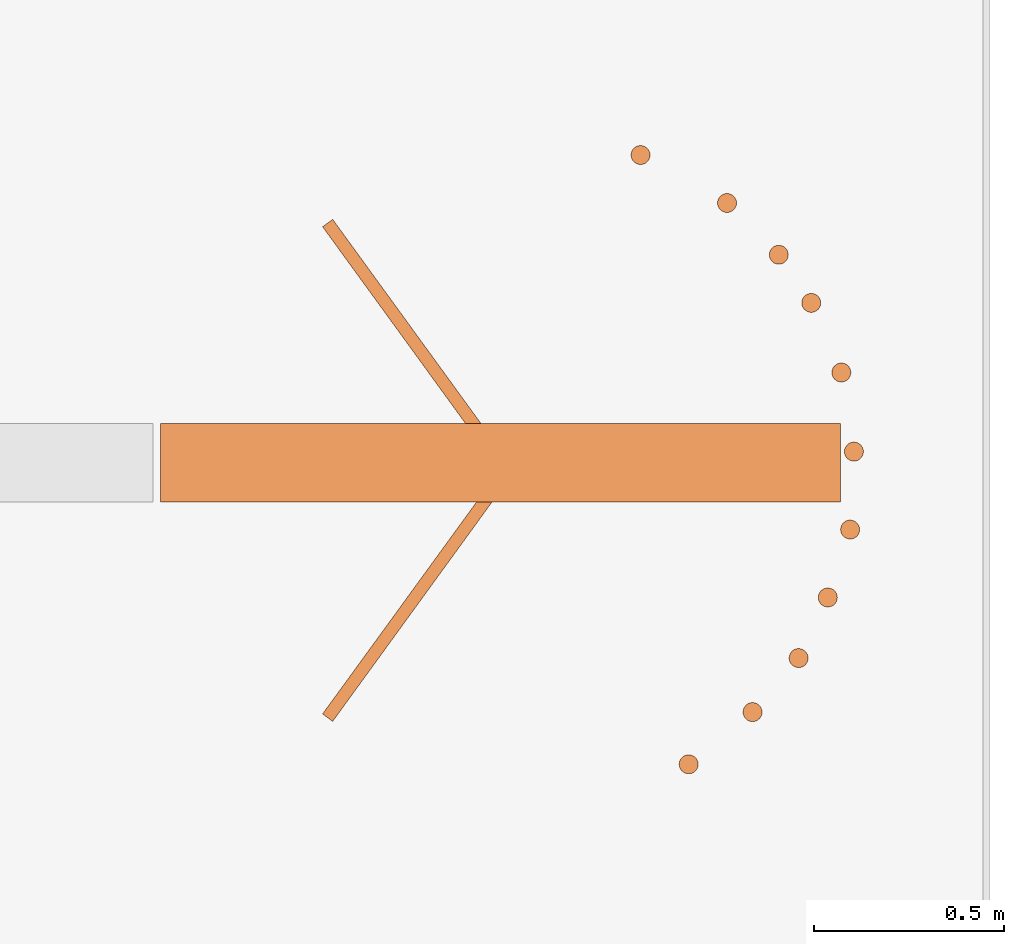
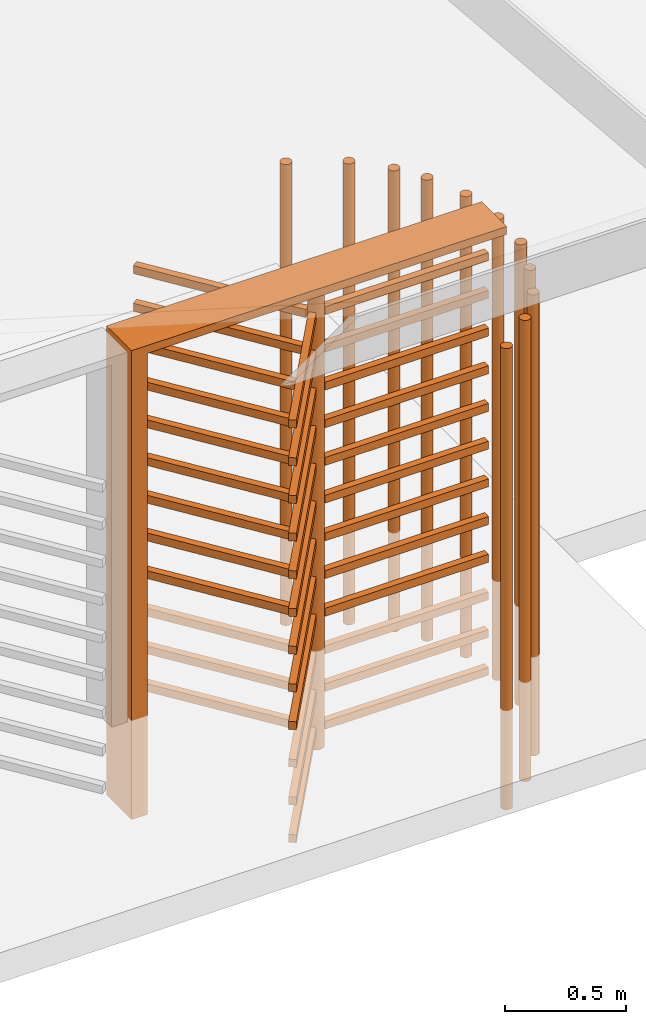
# One storey, part 62 of 64: 1 proxy.
"""IFC2X3 building model written with IfcOpenShell, lengths in millimetres."""

from ifc_helpers import new_model, entity, si_unit, converted_unit, derived_unit, direction, frame, frame_2d, origin, origin_2d_with_axis, place, context, subcontext, project, spatial, polyline, rectangle, circle, outline, extrude, source, transform, mapped, material, type_object, type_shapes, element, save


model = new_model("IFC2X3")

# Units and contexts
model_context = context("Model", 3, precision=0.01, world=origin(), true_north=direction((4.05803320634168e-15, -1.0)))
body_context = subcontext(model_context, "Body", "Model", "MODEL_VIEW")
ifc_project = project(units=[si_unit("LENGTHUNIT", "METRE", prefix="MILLI"), si_unit("AREAUNIT", "SQUARE_METRE"), si_unit("VOLUMEUNIT", "CUBIC_METRE"), converted_unit("PLANEANGLEUNIT", "DEGREE", entity("IfcRatioMeasure", 0.0174532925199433), si_unit("PLANEANGLEUNIT", "RADIAN"), dimensions=[0, 0, 0, 0, 0, 0, 0]), si_unit("MASSUNIT", "GRAM", prefix="KILO"), derived_unit("MASSDENSITYUNIT", [(si_unit("MASSUNIT", "GRAM", prefix="KILO"), 1), (si_unit("LENGTHUNIT", "METRE"), -3)]), si_unit("TIMEUNIT", "SECOND"), si_unit("FREQUENCYUNIT", "HERTZ"), si_unit("THERMODYNAMICTEMPERATUREUNIT", "DEGREE_CELSIUS"), derived_unit("THERMALTRANSMITTANCEUNIT", [(si_unit("MASSUNIT", "GRAM", prefix="KILO"), 1), (si_unit("THERMODYNAMICTEMPERATUREUNIT", "KELVIN"), -1), (si_unit("TIMEUNIT", "SECOND"), -3)]), derived_unit("VOLUMETRICFLOWRATEUNIT", [(si_unit("LENGTHUNIT", "METRE"), 3), (si_unit("TIMEUNIT", "SECOND"), -1)]), si_unit("ELECTRICCURRENTUNIT", "AMPERE"), si_unit("ELECTRICVOLTAGEUNIT", "VOLT"), si_unit("POWERUNIT", "WATT"), si_unit("FORCEUNIT", "NEWTON", prefix="KILO"), si_unit("ILLUMINANCEUNIT", "LUX"), si_unit("LUMINOUSFLUXUNIT", "LUMEN"), si_unit("LUMINOUSINTENSITYUNIT", "CANDELA"), derived_unit("USERDEFINED", [(si_unit("MASSUNIT", "GRAM", prefix="KILO"), -1), (si_unit("LENGTHUNIT", "METRE"), -2), (si_unit("TIMEUNIT", "SECOND"), 3), (si_unit("LUMINOUSFLUXUNIT", "LUMEN"), 1)]), derived_unit("LINEARVELOCITYUNIT", [(si_unit("LENGTHUNIT", "METRE"), 1), (si_unit("TIMEUNIT", "SECOND"), -1)]), si_unit("PRESSUREUNIT", "PASCAL"), derived_unit("USERDEFINED", [(si_unit("LENGTHUNIT", "METRE"), -2), (si_unit("MASSUNIT", "GRAM", prefix="KILO"), 1), (si_unit("TIMEUNIT", "SECOND"), -2)])], contexts=[model_context])

# Site, building, storey
site_placement = place(None, frame((927466.849349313, 583801.882853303, 0.0), z_axis=(0.0, 0.0, 1.0), x_axis=(-1.0, 0.0, 0.0)))
site = spatial("IfcSite", under=ifc_project, at=site_placement, Name="Surface", CompositionType="ELEMENT")
building_placement = place(site_placement, origin())
building = spatial("IfcBuilding", under=site, at=building_placement, CompositionType="ELEMENT")
storey_placement = place(building_placement, frame((0.0, 0.0, 44170.0)))
storey = spatial("IfcBuildingStorey", under=building, at=storey_placement, Name="Ground FFL", CompositionType="ELEMENT", Elevation=44170.0)

# Proxy
ifc_material = material(Name="metal")
building_element_proxy_type = type_object("IfcBuildingElementProxyType", Name="turnstile", PredefinedType="NOTDEFINED", material=ifc_material)
shared_shape = source(origin(), body_context, "Body", "SweptSolid", [
    extrude(outline(polyline([(-761.333333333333, 546.002047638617), (1562.66666666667, 546.002047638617), (1562.66666666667, 621.174640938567), (-801.333333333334, 621.174640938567), (-801.333333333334, -1167.17668857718), (-761.333333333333, -1167.17668857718), (-761.333333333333, 546.002047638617)])), frame((-306.647232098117, -82.987966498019, 1562.66666666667), z_axis=(0.0, 1.0, 0.0), x_axis=(0.0, 0.0, -1.0)), (0.0, 0.0, 1.0), 206.680121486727),
    extrude(circle(Radius=25.0, at=origin_2d_with_axis()), frame((334.415185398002, 829.159621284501, 0.0)), (0.0, 0.0, 1.0), 2324.0),
    extrude(circle(Radius=25.0, at=frame_2d((0.0, -1.35358391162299e-13), x_axis=(1.0, 0.0))), frame((460.972571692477, -772.984015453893, 0.0)), (0.0, 0.0, 1.0), 2324.0),
    extrude(circle(Radius=25.0, at=frame_2d((0.0, -1.35358391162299e-13), x_axis=(1.0, 0.0))), frame((628.922664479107, -635.772859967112, 0.0)), (0.0, 0.0, 1.0), 2324.0),
    extrude(circle(Radius=25.0, at=frame_2d((0.0, -1.35358391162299e-13), x_axis=(1.0, 0.0))), frame((885.529456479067, -155.795903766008, 0.0)), (0.0, 0.0, 1.0), 2324.0),
    extrude(circle(Radius=25.0, at=frame_2d((0.0, -6.76791955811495e-14), x_axis=(1.0, 0.0))), frame((750.082223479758, -493.671776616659, 0.0)), (0.0, 0.0, 1.0), 2324.0),
    extrude(circle(Radius=25.0, at=frame_2d((0.0, -1.35358391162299e-13), x_axis=(1.0, 0.0))), frame((826.815063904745, -334.353193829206, 0.0)), (0.0, 0.0, 1.0), 2324.0),
    extrude(circle(Radius=25.0, at=frame_2d((0.0, -3.38395977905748e-14), x_axis=(1.0, 0.0))), frame((895.529456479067, 49.2040962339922, 0.0)), (0.0, 0.0, 1.0), 2324.0),
    extrude(circle(Radius=25.0, at=frame_2d((0.0, -1.01518793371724e-13), x_axis=(1.0, 0.0))), frame((862.441450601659, 257.283392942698, 0.0)), (0.0, 0.0, 1.0), 2324.0),
    extrude(circle(Radius=25.0, at=frame_2d((0.0, -1.35358391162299e-13), x_axis=(1.0, 0.0))), frame((783.316799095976, 440.405217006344, 0.0)), (0.0, 0.0, 1.0), 2324.0),
    extrude(circle(Radius=25.0, at=frame_2d((0.0, -6.76791955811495e-14), x_axis=(1.0, 0.0))), frame((697.931913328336, 566.993515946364, 0.0)), (0.0, 0.0, 1.0), 2324.0),
    extrude(circle(Radius=25.0, at=origin_2d_with_axis()), frame((561.816309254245, 703.109120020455, 0.0)), (0.0, 0.0, 1.0), 2324.0),
    extrude(rectangle(XDim=780.0, YDim=32.9097025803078, at=origin_2d_with_axis()), frame((-259.236248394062, -334.808632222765, 75.1291716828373), z_axis=(0.0, 0.0, 1.0), x_axis=(-0.587785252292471, -0.809016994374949, 0.0)), (0.0, 0.0, 1.0), 40.0000000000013),
    extrude(rectangle(XDim=780.0, YDim=32.9097025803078, at=frame_2d((-8.5265128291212e-14, 1.59872115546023e-14), x_axis=(1.0, 0.0))), frame((-259.236248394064, -334.808632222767, 2165.12917168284), z_axis=(0.0, 0.0, 1.0), x_axis=(-0.587785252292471, -0.809016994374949, 0.0)), (0.0, 0.0, 1.0), 40.0000000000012),
    extrude(rectangle(XDim=780.0, YDim=32.9097025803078, at=frame_2d((0.0, 4.9737991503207e-14), x_axis=(1.0, 0.0))), frame((-259.236248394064, -334.808632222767, 1975.12917168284), z_axis=(0.0, 0.0, 1.0), x_axis=(-0.587785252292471, -0.809016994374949, 0.0)), (0.0, 0.0, 1.0), 40.0000000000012),
    extrude(rectangle(XDim=780.0, YDim=32.9097025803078, at=frame_2d((0.0, -3.37507799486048e-14), x_axis=(1.0, 0.0))), frame((-259.236248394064, -334.808632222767, 1785.12917168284), z_axis=(0.0, 0.0, 1.0), x_axis=(-0.587785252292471, -0.809016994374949, 0.0)), (0.0, 0.0, 1.0), 40.0000000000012),
    extrude(rectangle(XDim=780.0, YDim=32.9097025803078, at=frame_2d((0.0, 1.77635683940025e-14), x_axis=(1.0, 0.0))), frame((-259.236248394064, -334.808632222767, 1595.12917168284), z_axis=(0.0, 0.0, 1.0), x_axis=(-0.587785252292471, -0.809016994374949, 0.0)), (0.0, 0.0, 1.0), 40.0000000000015),
    extrude(rectangle(XDim=780.0, YDim=32.9097025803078, at=frame_2d((0.0, 3.37507799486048e-14), x_axis=(1.0, 0.0))), frame((-259.236248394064, -334.808632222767, 1405.12917168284), z_axis=(0.0, 0.0, 1.0), x_axis=(-0.587785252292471, -0.809016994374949, 0.0)), (0.0, 0.0, 1.0), 40.0000000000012),
    extrude(rectangle(XDim=780.0, YDim=32.9097025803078, at=origin_2d_with_axis()), frame((-259.236248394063, -334.808632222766, 1215.12917168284), z_axis=(0.0, 0.0, 1.0), x_axis=(-0.587785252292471, -0.809016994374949, 0.0)), (0.0, 0.0, 1.0), 40.0000000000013),
    extrude(rectangle(XDim=780.0, YDim=32.9097025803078, at=frame_2d((5.6843418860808e-14, 1.59872115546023e-14), x_axis=(1.0, 0.0))), frame((-259.236248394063, -334.808632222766, 1025.12917168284), z_axis=(0.0, 0.0, 1.0), x_axis=(-0.587785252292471, -0.809016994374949, 0.0)), (0.0, 0.0, 1.0), 40.0000000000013),
    extrude(rectangle(XDim=780.0, YDim=32.9097025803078, at=frame_2d((2.8421709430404e-14, -1.77635683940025e-14), x_axis=(1.0, 0.0))), frame((-259.236248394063, -334.808632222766, 835.129171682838), z_axis=(0.0, 0.0, 1.0), x_axis=(-0.587785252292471, -0.809016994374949, 0.0)), (0.0, 0.0, 1.0), 40.0000000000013),
    extrude(rectangle(XDim=780.0, YDim=32.9097025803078, at=frame_2d((-5.6843418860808e-14, 0.0), x_axis=(1.0, 0.0))), frame((-259.236248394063, -334.808632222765, 645.129171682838), z_axis=(0.0, 0.0, 1.0), x_axis=(-0.587785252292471, -0.809016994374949, 0.0)), (0.0, 0.0, 1.0), 40.0000000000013),
    extrude(rectangle(XDim=780.0, YDim=32.9097025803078, at=origin_2d_with_axis()), frame((-259.236248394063, -334.808632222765, 455.129171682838), z_axis=(0.0, 0.0, 1.0), x_axis=(-0.587785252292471, -0.809016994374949, 0.0)), (0.0, 0.0, 1.0), 40.0000000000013),
    extrude(rectangle(XDim=780.0, YDim=32.9097025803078, at=frame_2d((-5.6843418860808e-14, 0.0), x_axis=(1.0, 0.0))), frame((-259.236248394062, -334.808632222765, 265.129171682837), z_axis=(0.0, 0.0, 1.0), x_axis=(-0.587785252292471, -0.809016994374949, 0.0)), (0.0, 0.0, 1.0), 40.0000000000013),
    extrude(rectangle(XDim=780.0, YDim=32.9097025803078, at=origin_2d_with_axis()), frame((-259.236248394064, 334.808632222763, 75.1291716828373), z_axis=(0.0, 0.0, 1.0), x_axis=(0.587785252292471, -0.809016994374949, 0.0)), (0.0, 0.0, 1.0), 40.0000000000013),
    extrude(rectangle(XDim=780.0, YDim=32.9097025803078, at=frame_2d((0.0, -3.37507799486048e-14), x_axis=(1.0, 0.0))), frame((-259.236248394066, 334.808632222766, 2165.12917168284), z_axis=(0.0, 0.0, 1.0), x_axis=(0.587785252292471, -0.809016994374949, 0.0)), (0.0, 0.0, 1.0), 40.0000000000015),
    extrude(rectangle(XDim=780.0, YDim=32.9097025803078, at=frame_2d((2.8421709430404e-14, -1.77635683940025e-14), x_axis=(1.0, 0.0))), frame((-259.236248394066, 334.808632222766, 1975.12917168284), z_axis=(0.0, 0.0, 1.0), x_axis=(0.587785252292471, -0.809016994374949, 0.0)), (0.0, 0.0, 1.0), 40.0000000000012),
    extrude(rectangle(XDim=780.0, YDim=32.9097025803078, at=frame_2d((-5.6843418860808e-14, 1.77635683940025e-14), x_axis=(1.0, 0.0))), frame((-259.236248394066, 334.808632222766, 1785.12917168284), z_axis=(0.0, 0.0, 1.0), x_axis=(0.587785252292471, -0.809016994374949, 0.0)), (0.0, 0.0, 1.0), 40.0000000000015),
    extrude(rectangle(XDim=780.0, YDim=32.9097025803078, at=frame_2d((5.6843418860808e-14, 1.77635683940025e-14), x_axis=(1.0, 0.0))), frame((-259.236248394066, 334.808632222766, 1595.12917168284), z_axis=(0.0, 0.0, 1.0), x_axis=(0.587785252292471, -0.809016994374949, 0.0)), (0.0, 0.0, 1.0), 40.0000000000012),
    extrude(rectangle(XDim=780.0, YDim=32.9097025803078, at=origin_2d_with_axis()), frame((-259.236248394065, 334.808632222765, 1405.12917168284), z_axis=(0.0, 0.0, 1.0), x_axis=(0.587785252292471, -0.809016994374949, 0.0)), (0.0, 0.0, 1.0), 40.0000000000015),
    extrude(rectangle(XDim=780.0, YDim=32.9097025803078, at=frame_2d((-5.6843418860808e-14, -3.37507799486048e-14), x_axis=(1.0, 0.0))), frame((-259.236248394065, 334.808632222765, 1215.12917168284), z_axis=(0.0, 0.0, 1.0), x_axis=(0.587785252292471, -0.809016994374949, 0.0)), (0.0, 0.0, 1.0), 40.0000000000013),
    extrude(rectangle(XDim=780.0, YDim=32.9097025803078, at=frame_2d((0.0, 1.77635683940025e-14), x_axis=(1.0, 0.0))), frame((-259.236248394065, 334.808632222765, 1025.12917168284), z_axis=(0.0, 0.0, 1.0), x_axis=(0.587785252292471, -0.809016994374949, 0.0)), (0.0, 0.0, 1.0), 40.0000000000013),
    extrude(rectangle(XDim=780.0, YDim=32.9097025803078, at=frame_2d((0.0, 1.77635683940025e-14), x_axis=(1.0, 0.0))), frame((-259.236248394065, 334.808632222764, 835.129171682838), z_axis=(0.0, 0.0, 1.0), x_axis=(0.587785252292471, -0.809016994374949, 0.0)), (0.0, 0.0, 1.0), 40.0000000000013),
    extrude(rectangle(XDim=780.0, YDim=32.9097025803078, at=frame_2d((2.8421709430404e-14, 1.59872115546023e-14), x_axis=(1.0, 0.0))), frame((-259.236248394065, 334.808632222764, 645.129171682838), z_axis=(0.0, 0.0, 1.0), x_axis=(0.587785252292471, -0.809016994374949, 0.0)), (0.0, 0.0, 1.0), 40.0000000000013),
    extrude(rectangle(XDim=780.0, YDim=32.9097025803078, at=origin_2d_with_axis()), frame((-259.236248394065, 334.808632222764, 455.129171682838), z_axis=(0.0, 0.0, 1.0), x_axis=(0.587785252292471, -0.809016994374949, 0.0)), (0.0, 0.0, 1.0), 40.0000000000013),
    extrude(rectangle(XDim=780.0, YDim=32.9097025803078, at=frame_2d((0.0, -4.9737991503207e-14), x_axis=(1.0, 0.0))), frame((-259.236248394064, 334.808632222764, 265.129171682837), z_axis=(0.0, 0.0, 1.0), x_axis=(0.587785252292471, -0.809016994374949, 0.0)), (0.0, 0.0, 1.0), 40.0000000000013),
    extrude(rectangle(XDim=780.0, YDim=32.9097025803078, at=origin_2d_with_axis()), frame((425.0, 4.29200441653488, 75.1291716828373), z_axis=(0.0, 0.0, 1.0), x_axis=(-1.0, 0.0, 0.0)), (0.0, 0.0, 1.0), 40.0000000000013),
    extrude(rectangle(XDim=780.0, YDim=32.9097025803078, at=origin_2d_with_axis()), frame((425.0, 4.29200441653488, 2165.12917168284), z_axis=(0.0, 0.0, 1.0), x_axis=(-1.0, 0.0, 0.0)), (0.0, 0.0, 1.0), 40.0000000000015),
    extrude(rectangle(XDim=780.0, YDim=32.9097025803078, at=origin_2d_with_axis()), frame((425.0, 4.29200441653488, 1975.12917168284), z_axis=(0.0, 0.0, 1.0), x_axis=(-1.0, 0.0, 0.0)), (0.0, 0.0, 1.0), 40.0000000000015),
    extrude(rectangle(XDim=780.0, YDim=32.9097025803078, at=origin_2d_with_axis()), frame((425.0, 4.29200441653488, 1785.12917168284), z_axis=(0.0, 0.0, 1.0), x_axis=(-1.0, 0.0, 0.0)), (0.0, 0.0, 1.0), 40.0000000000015),
    extrude(rectangle(XDim=780.0, YDim=32.9097025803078, at=origin_2d_with_axis()), frame((425.0, 4.29200441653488, 1595.12917168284), z_axis=(0.0, 0.0, 1.0), x_axis=(-1.0, 0.0, 0.0)), (0.0, 0.0, 1.0), 40.0000000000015),
    extrude(rectangle(XDim=780.0, YDim=32.9097025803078, at=origin_2d_with_axis()), frame((425.0, 4.29200441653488, 1405.12917168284), z_axis=(0.0, 0.0, 1.0), x_axis=(-1.0, 0.0, 0.0)), (0.0, 0.0, 1.0), 40.0000000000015),
    extrude(rectangle(XDim=780.0, YDim=32.9097025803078, at=origin_2d_with_axis()), frame((425.0, 4.29200441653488, 1215.12917168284), z_axis=(0.0, 0.0, 1.0), x_axis=(-1.0, 0.0, 0.0)), (0.0, 0.0, 1.0), 40.0000000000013),
    extrude(rectangle(XDim=780.0, YDim=32.9097025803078, at=origin_2d_with_axis()), frame((425.0, 4.29200441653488, 1025.12917168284), z_axis=(0.0, 0.0, 1.0), x_axis=(-1.0, 0.0, 0.0)), (0.0, 0.0, 1.0), 40.0000000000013),
    extrude(rectangle(XDim=780.0, YDim=32.9097025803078, at=origin_2d_with_axis()), frame((425.0, 4.29200441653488, 835.129171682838), z_axis=(0.0, 0.0, 1.0), x_axis=(-1.0, 0.0, 0.0)), (0.0, 0.0, 1.0), 40.0000000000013),
    extrude(rectangle(XDim=780.0, YDim=32.9097025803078, at=origin_2d_with_axis()), frame((425.0, 4.29200441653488, 645.129171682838), z_axis=(0.0, 0.0, 1.0), x_axis=(-1.0, 0.0, 0.0)), (0.0, 0.0, 1.0), 40.0000000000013),
    extrude(rectangle(XDim=780.0, YDim=32.9097025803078, at=origin_2d_with_axis()), frame((425.0, 4.29200441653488, 455.129171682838), z_axis=(0.0, 0.0, 1.0), x_axis=(-1.0, 0.0, 0.0)), (0.0, 0.0, 1.0), 40.0000000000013),
    extrude(rectangle(XDim=780.0, YDim=32.9097025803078, at=origin_2d_with_axis()), frame((425.0, 4.29200441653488, 265.129171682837), z_axis=(0.0, 0.0, 1.0), x_axis=(-1.0, 0.0, 0.0)), (0.0, 0.0, 1.0), 40.0000000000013),
    extrude(circle(Radius=35.0, at=frame_2d((-1.16802061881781e-15, -1.5757435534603e-13), x_axis=(1.0, 0.0))), origin(), (0.0, 0.0, 1.0), 2324.0),
])
type_shapes(building_element_proxy_type, [shared_shape])
proxy_placement = place(storey_placement, frame((-21709.5284214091, 48120.437372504, 0.0), z_axis=(0.0, 0.0, 1.0), x_axis=(-1.0, 0.0, 0.0)))
element("IfcBuildingElementProxy", 1, at=proxy_placement, inside=storey, type_object=building_element_proxy_type, material=ifc_material, Name="turnstile:turnstile", ObjectType="turnstile", context=body_context, shape_type="MappedRepresentation", body=[
    mapped(shared_shape, transform((0.0, 0.0, 0.0), scale=1.0)),
])

save(model, "model.ifc")
